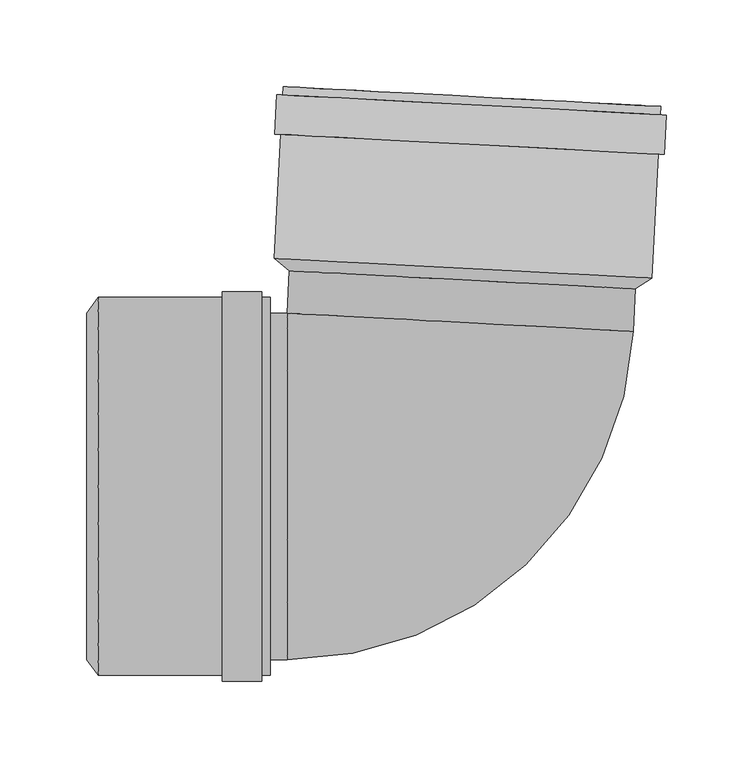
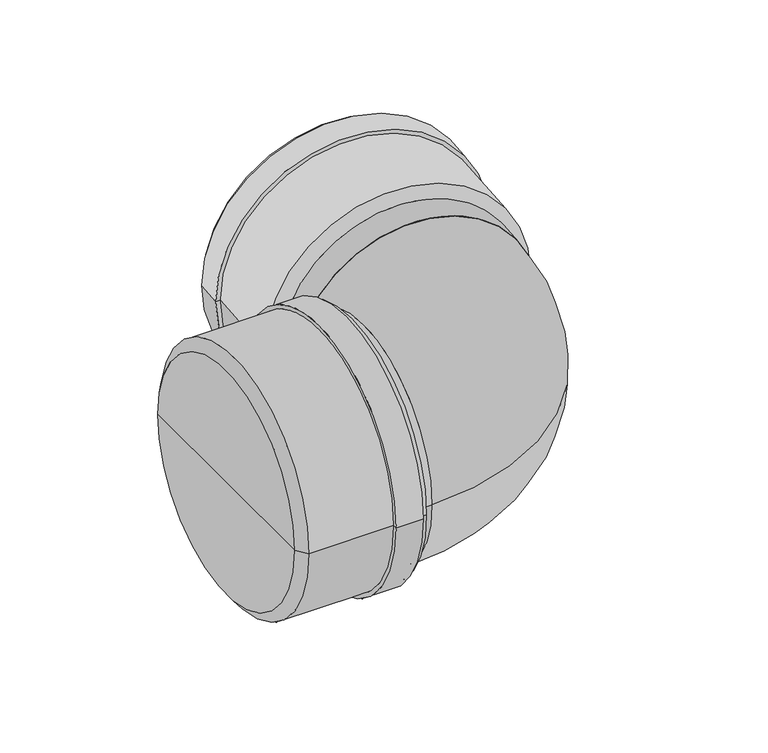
"""IFC4 building model written with IfcOpenShell, lengths in millimetres: pipe fitting geometry, pf_KGB : pf_KGB."""

from ifc_helpers import new_model, si_unit, point, frame, origin, origin_2d, place, context, project, spatial, polyline, circle_curve, ellipse_curve, trimmed, segment, composite_curve, outline, extrude, source, transform, mapped, element, save
from ifc_brep_helpers import plane_surface, cylinder_surface, revolved_surface, advanced_brep


def pipe_fitting_13331f16(model_context):
    return source(origin(), model_context, "Body", "SolidModel", [
        advanced_brep(
        [(106.1118667, 114.0027708, 0.0), (-93.6140403, 124.4699621, 0.0), (-102.3509182, 131.6370372, 0.0), (115.5500463, 120.2173315, 0.0), (6.2489132, 119.2363664, 0.0), (120.7470068, 219.3812443, 0.0), (-97.1539577, 230.80095, 0.0), (-88.0664289, 230.3246928, 0.0), (111.659478, 219.8575015, 0.0), (-97.4051703, 226.0075282, 0.0), (120.4957942, 214.5878225, 0.0), (-100.8005107, 226.1854704, 0.0), (123.8911346, 214.4098803, 0.0), (-101.9937705, 203.4167171, 0.0), (122.6978748, 191.6411269, 0.0), (-98.5984301, 203.2387748, 0.0), (119.3025344, 191.8190691, 0.0), (106.4625176, 120.6935887, 0.0), (-93.2633894, 131.16078, 0.0), (6.5995641, 125.9271843, 0.0)],
        [
            (0, 1, circle_curve(frame((6.2489132, 119.2363664, 0.0), z_axis=(0.052335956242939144, 0.9986295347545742, 0.0), x_axis=(-0.9986295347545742, 0.052335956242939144, 0.0)), 100.0)),
            (1, 2),
            (2, 3, circle_curve(frame((6.5995641, 125.9271843, 0.0), z_axis=(-0.052335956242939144, -0.9986295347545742, 0.0), x_axis=(-0.9986295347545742, 0.052335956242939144, 0.0)), 109.1)),
            (3, 0),
            (1, 0, circle_curve(frame((6.2489132, 119.2363664, 0.0), z_axis=(0.052335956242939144, 0.9986295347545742, 0.0), x_axis=(-0.9986295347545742, 0.052335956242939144, 0.0)), 100.0)),
            (3, 2, circle_curve(frame((6.5995641, 125.9271843, 0.0), z_axis=(-0.052335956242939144, -0.9986295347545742, 0.0), x_axis=(-0.9986295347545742, 0.052335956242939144, 0.0)), 109.1)),
            (4, 1),
            (0, 4),
            (5, 6, circle_curve(frame((11.7965245, 225.0910971, 0.0), z_axis=(0.052335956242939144, 0.9986295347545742, 0.0), x_axis=(-0.9986295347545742, 0.052335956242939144, 0.0)), 109.1)),
            (6, 7),
            (7, 8, circle_curve(frame((11.7965245, 225.0910971, 0.0), z_axis=(-0.052335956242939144, -0.9986295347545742, 0.0), x_axis=(-0.9986295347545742, 0.052335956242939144, 0.0)), 100.0)),
            (8, 5),
            (9, 10, circle_curve(frame((11.5453119, 220.2976754, 0.0), z_axis=(0.052335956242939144, 0.9986295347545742, 0.0), x_axis=(-0.9986295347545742, 0.052335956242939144, 0.0)), 109.1)),
            (10, 5),
            (5, 6, circle_curve(frame((11.7965245, 225.0910971, 0.0), z_axis=(-0.052335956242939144, -0.9986295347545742, 0.0), x_axis=(-0.9986295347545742, 0.052335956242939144, 0.0)), 109.1)),
            (6, 9),
            (11, 12, circle_curve(frame((11.5453119, 220.2976754, 0.0), z_axis=(0.052335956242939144, 0.9986295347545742, 0.0), x_axis=(-0.9986295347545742, 0.052335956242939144, 0.0)), 112.5)),
            (12, 10),
            (9, 11),
            (13, 14, circle_curve(frame((10.3520521, 197.528922, 0.0), z_axis=(0.052335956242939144, 0.9986295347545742, 0.0), x_axis=(-0.9986295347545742, 0.052335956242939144, 0.0)), 112.5)),
            (14, 12),
            (11, 13),
            (15, 16, circle_curve(frame((10.3520521, 197.528922, 0.0), z_axis=(0.052335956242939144, 0.9986295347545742, 0.0), x_axis=(-0.9986295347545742, 0.052335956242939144, 0.0)), 109.1)),
            (16, 14),
            (13, 15),
            (8, 7, circle_curve(frame((11.7965245, 225.0910971, 0.0), z_axis=(-0.052335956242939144, -0.9986295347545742, 0.0), x_axis=(-0.9986295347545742, 0.052335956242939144, 0.0)), 100.0)),
            (10, 9, circle_curve(frame((11.5453119, 220.2976754, 0.0), z_axis=(0.052335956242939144, 0.9986295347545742, 0.0), x_axis=(-0.9986295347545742, 0.052335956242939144, 0.0)), 109.1)),
            (12, 11, circle_curve(frame((11.5453119, 220.2976754, 0.0), z_axis=(0.052335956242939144, 0.9986295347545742, 0.0), x_axis=(-0.9986295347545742, 0.052335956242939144, 0.0)), 112.5)),
            (14, 13, circle_curve(frame((10.3520521, 197.528922, 0.0), z_axis=(0.052335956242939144, 0.9986295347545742, 0.0), x_axis=(-0.9986295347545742, 0.052335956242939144, 0.0)), 112.5)),
            (16, 15, circle_curve(frame((10.3520521, 197.528922, 0.0), z_axis=(0.052335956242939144, 0.9986295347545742, 0.0), x_axis=(-0.9986295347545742, 0.052335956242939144, 0.0)), 109.1)),
            (2, 15),
            (16, 3),
            (17, 18, circle_curve(frame((6.5995641, 125.9271843, 0.0), z_axis=(0.052335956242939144, 0.9986295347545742, 0.0), x_axis=(-0.9986295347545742, 0.052335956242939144, 0.0)), 100.0)),
            (18, 19),
            (19, 17),
            (18, 17, circle_curve(frame((6.5995641, 125.9271843, 0.0), z_axis=(0.052335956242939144, 0.9986295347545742, 0.0), x_axis=(-0.9986295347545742, 0.052335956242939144, 0.0)), 100.0)),
            (7, 18),
            (17, 8),
        ],
        [
            revolved_surface(polyline([(-102.3509182, 131.6370372, 0.0), (-93.6140403, 124.4699621, 0.0)]), (6.2489132, 119.2363664, 0.0), (-0.052335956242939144, -0.9986295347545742, 0.0)),
            plane_surface(frame((6.2489132, 119.2363664, 0.0), z_axis=(-0.052335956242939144, -0.9986295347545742, 0.0), x_axis=(-0.9986295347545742, 0.052335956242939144, 0.0))),
            plane_surface(frame((11.7965245, 225.0910971, 0.0), z_axis=(0.052335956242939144, 0.9986295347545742, 0.0), x_axis=(-0.9986295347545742, 0.052335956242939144, 0.0))),
            cylinder_surface(frame((6.2489132, 119.2363664, 0.0), z_axis=(-0.052335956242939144, -0.9986295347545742, 0.0), x_axis=(-0.9986295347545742, 0.052335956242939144, 0.0)), 109.1),
            plane_surface(frame((11.5453119, 220.2976754, 0.0), z_axis=(0.052335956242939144, 0.9986295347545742, 0.0), x_axis=(-0.9986295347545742, 0.052335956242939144, 0.0))),
            cylinder_surface(frame((6.2489132, 119.2363664, 0.0), z_axis=(-0.052335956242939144, -0.9986295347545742, 0.0), x_axis=(-0.9986295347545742, 0.052335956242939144, 0.0)), 112.5),
            plane_surface(frame((10.3520521, 197.528922, 0.0), z_axis=(-0.052335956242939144, -0.9986295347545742, 0.0), x_axis=(-0.9986295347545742, 0.052335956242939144, 0.0))),
            plane_surface(frame((6.5995641, 125.9271843, 0.0), z_axis=(0.052335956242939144, 0.9986295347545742, 0.0), x_axis=(-0.9986295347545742, 0.052335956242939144, 0.0))),
            revolved_surface(polyline([(-93.26338936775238, 131.1607799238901, 0.0), (-88.06642890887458, 230.3246928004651, 0.0)]), (6.2489132, 119.2363664, 0.0), (-0.052335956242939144, -0.9986295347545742, 0.0)),
        ],
        [
            (0, [[1, 2, 3, 4]]),
            (0, [[5, -4, 6, -2]]),
            (1, [[7, -1, 8]]),
            (1, [[-8, -5, -7]]),
            (2, [[9, 10, 11, 12]]),
            (3, [[13, 14, 15, 16]]),
            (4, [[17, 18, -13, 19]]),
            (5, [[20, 21, -17, 22]]),
            (6, [[23, 24, -20, 25]]),
            (2, [[-15, -12, 26, -10]]),
            (3, [[27, -16, -9, -14]]),
            (4, [[28, -19, -27, -18]]),
            (5, [[29, -22, -28, -21]]),
            (6, [[30, -25, -29, -24]]),
            (3, [[-3, 31, -30, 32]]),
            (3, [[-6, -32, -23, -31]]),
            (7, [[33, 34, 35]]),
            (7, [[36, -35, -34]]),
            (8, [[-11, 37, -33, 38]]),
            (8, [[-26, -38, -36, -37]]),
        ],
    ),
        advanced_brep(
        [(-210.7, -100.0, 0.0), (-210.7, 100.0, 0.0), (-204.0, 109.1, 0.0), (-204.0, -109.1, 0.0), (-210.7, 0.0, 0.0), (-104.7, -109.1, 0.0), (-104.7, 109.1, 0.0), (-104.7, 100.0, 0.0), (-104.7, -100.0, 0.0), (-109.5, 109.1, 0.0), (-109.5, -109.1, 0.0), (-109.5, 112.5, 0.0), (-109.5, -112.5, 0.0), (-132.3, 112.5, 0.0), (-132.3, -112.5, 0.0), (-132.3, 109.1, 0.0), (-132.3, -109.1, 0.0), (-204.0, -100.0, 0.0), (-204.0, 100.0, 0.0), (-204.0, 0.0, 0.0)],
        [
            (0, 1, circle_curve(frame((-210.7, 0.0, 0.0), z_axis=(1.0, 0.0, 0.0), x_axis=(0.0, 1.0, 0.0)), 100.0)),
            (1, 2),
            (2, 3, circle_curve(frame((-204.0, 0.0, 0.0), z_axis=(-1.0, 0.0, 0.0), x_axis=(0.0, 1.0, 0.0)), 109.1)),
            (3, 0),
            (1, 0, circle_curve(frame((-210.7, 0.0, 0.0), z_axis=(1.0, 0.0, 0.0), x_axis=(0.0, 1.0, 0.0)), 100.0)),
            (3, 2, circle_curve(frame((-204.0, 0.0, 0.0), z_axis=(-1.0, 0.0, 0.0), x_axis=(0.0, 1.0, 0.0)), 109.1)),
            (4, 1),
            (0, 4),
            (5, 6, circle_curve(frame((-104.7, 0.0, 0.0), z_axis=(1.0, 0.0, 0.0), x_axis=(0.0, 1.0, 0.0)), 109.1)),
            (6, 7),
            (7, 8, circle_curve(frame((-104.7, 0.0, 0.0), z_axis=(-1.0, 0.0, 0.0), x_axis=(0.0, 1.0, 0.0)), 100.0)),
            (8, 5),
            (9, 10, circle_curve(frame((-109.5, 0.0, 0.0), z_axis=(1.0, 0.0, 0.0), x_axis=(0.0, 1.0, 0.0)), 109.1)),
            (10, 5),
            (5, 6, circle_curve(frame((-104.7, 0.0, 0.0), z_axis=(-1.0, 0.0, 0.0), x_axis=(0.0, 1.0, 0.0)), 109.1)),
            (6, 9),
            (11, 12, circle_curve(frame((-109.5, 0.0, 0.0), z_axis=(1.0, 0.0, 0.0), x_axis=(0.0, 1.0, 0.0)), 112.5)),
            (12, 10),
            (9, 11),
            (13, 14, circle_curve(frame((-132.3, 0.0, 0.0), z_axis=(1.0, 0.0, 0.0), x_axis=(0.0, 1.0, 0.0)), 112.5)),
            (14, 12),
            (11, 13),
            (15, 16, circle_curve(frame((-132.3, 0.0, 0.0), z_axis=(1.0, 0.0, 0.0), x_axis=(0.0, 1.0, 0.0)), 109.1)),
            (16, 14),
            (13, 15),
            (8, 7, circle_curve(frame((-104.7, 0.0, 0.0), z_axis=(-1.0, 0.0, 0.0), x_axis=(0.0, 1.0, 0.0)), 100.0)),
            (10, 9, circle_curve(frame((-109.5, 0.0, 0.0), z_axis=(1.0, 0.0, 0.0), x_axis=(0.0, 1.0, 0.0)), 109.1)),
            (12, 11, circle_curve(frame((-109.5, 0.0, 0.0), z_axis=(1.0, 0.0, 0.0), x_axis=(0.0, 1.0, 0.0)), 112.5)),
            (14, 13, circle_curve(frame((-132.3, 0.0, 0.0), z_axis=(1.0, 0.0, 0.0), x_axis=(0.0, 1.0, 0.0)), 112.5)),
            (16, 15, circle_curve(frame((-132.3, 0.0, 0.0), z_axis=(1.0, 0.0, 0.0), x_axis=(0.0, 1.0, 0.0)), 109.1)),
            (2, 15),
            (16, 3),
            (17, 18, circle_curve(frame((-204.0, 0.0, 0.0), z_axis=(1.0, 0.0, 0.0), x_axis=(0.0, 1.0, 0.0)), 100.0)),
            (18, 19),
            (19, 17),
            (18, 17, circle_curve(frame((-204.0, 0.0, 0.0), z_axis=(1.0, 0.0, 0.0), x_axis=(0.0, 1.0, 0.0)), 100.0)),
            (7, 18),
            (17, 8),
        ],
        [
            revolved_surface(polyline([(-204.0, 109.1, 0.0), (-210.7, 100.0, 0.0)]), (-210.7, 0.0, 0.0), (-1.0, 0.0, 0.0)),
            plane_surface(frame((-210.7, 0.0, 0.0), z_axis=(-1.0, 0.0, 0.0), x_axis=(0.0, 1.0, 0.0))),
            plane_surface(frame((-104.7, 0.0, 0.0), z_axis=(1.0, 0.0, 0.0), x_axis=(0.0, 1.0, 0.0))),
            cylinder_surface(frame((-210.7, 0.0, 0.0), z_axis=(-1.0, 0.0, 0.0), x_axis=(0.0, 1.0, 0.0)), 109.1),
            plane_surface(frame((-109.5, 0.0, 0.0), z_axis=(1.0, 0.0, 0.0), x_axis=(0.0, 1.0, 0.0))),
            cylinder_surface(frame((-210.7, 0.0, 0.0), z_axis=(-1.0, 0.0, 0.0), x_axis=(0.0, 1.0, 0.0)), 112.5),
            plane_surface(frame((-132.3, 0.0, 0.0), z_axis=(-1.0, 0.0, 0.0), x_axis=(0.0, 1.0, 0.0))),
            plane_surface(frame((-204.0, 0.0, 0.0), z_axis=(1.0, 0.0, 0.0), x_axis=(0.0, 1.0, 0.0))),
            revolved_surface(polyline([(-204.0, 100.0, 0.0), (-104.7, 100.0, 0.0)]), (-210.7, 0.0, 0.0), (-1.0, 0.0, 0.0)),
        ],
        [
            (0, [[1, 2, 3, 4]]),
            (0, [[5, -4, 6, -2]]),
            (1, [[7, -1, 8]]),
            (1, [[-8, -5, -7]]),
            (2, [[9, 10, 11, 12]]),
            (3, [[13, 14, 15, 16]]),
            (4, [[17, 18, -13, 19]]),
            (5, [[20, 21, -17, 22]]),
            (6, [[23, 24, -20, 25]]),
            (2, [[-15, -12, 26, -10]]),
            (3, [[27, -16, -9, -14]]),
            (4, [[28, -19, -27, -18]]),
            (5, [[29, -22, -28, -21]]),
            (6, [[30, -25, -29, -24]]),
            (3, [[-3, 31, -30, 32]]),
            (3, [[-6, -32, -23, -31]]),
            (7, [[33, 34, 35]]),
            (7, [[36, -35, -34]]),
            (8, [[-11, 37, -33, 38]]),
            (8, [[-26, -38, -36, -37]]),
        ],
    ),
        extrude(outline(composite_curve([segment(trimmed(circle_curve(origin_2d(), 100.0), [point((0.0, -100.0))], [point((0.0, 100.0))], False, "CARTESIAN"), True, "CONTINUOUS"), segment(trimmed(circle_curve(origin_2d(), 100.0), [point((0.0, 100.0))], [point((0.0, -100.0))], False, "CARTESIAN"), True, "CONTINUOUS")], self_intersect=False)), frame((4.9664968, 94.7664044, 0.0), z_axis=(0.05233595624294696, 0.9986295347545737, 0.0), x_axis=(0.0, 0.0, 1.0)), (0.0, 0.0, 1.0), 24.5035433),
        extrude(outline(composite_curve([segment(trimmed(circle_curve(origin_2d(), 100.0), [point((-100.0, 0.0))], [point((100.0, 0.0))], False, "CARTESIAN"), True, "CONTINUOUS"), segment(trimmed(circle_curve(origin_2d(), 100.0), [point((100.0, 0.0))], [point((-100.0, 0.0))], False, "CARTESIAN"), True, "CONTINUOUS")], self_intersect=False)), frame((-204.0, 0.0, 0.0), z_axis=(1.0, 0.0, 0.0), x_axis=(0.0, 1.0, 0.0)), (0.0, 0.0, 1.0), 109.1035433),
        advanced_brep(
        [(-94.8964567, -100.0, 0.0), (-94.8964567, 100.0, 0.0), (104.8294503, 89.5328088, 0.0)],
        [
            (0, 1, circle_curve(frame((-94.8964567, 0.0, 0.0), z_axis=(-1.0, 0.0, 0.0), x_axis=(0.0, 1.0, 0.0)), 100.0)),
            (1, 0, circle_curve(frame((-94.8964567, 0.0, 0.0), z_axis=(-1.0, 0.0, 0.0), x_axis=(0.0, 1.0, 0.0)), 100.0)),
            (2, 1, circle_curve(frame((4.9664968, 94.7664044, 0.0), z_axis=(0.05233595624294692, 0.9986295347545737, 0.0), x_axis=(-0.9986295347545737, 0.05233595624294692, 0.0)), 100.0)),
            (1, 2, circle_curve(frame((4.9664968, 94.7664044, 0.0), z_axis=(0.05233595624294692, 0.9986295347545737, 0.0), x_axis=(-0.9986295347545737, 0.05233595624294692, 0.0)), 100.0)),
            (2, 0, circle_curve(frame((-94.8964567, 100.0, 0.0), z_axis=(0.0, 0.0, -1.0), x_axis=(0.0, -1.0, 0.0)), 200.0)),
        ],
        [
            plane_surface(frame((-94.8964567, 100.0, -14.8), z_axis=(-1.0, 0.0, 0.0), x_axis=(0.0, -1.0, 0.0))),
            plane_surface(frame((-94.8964567, 100.0, -14.8), z_axis=(0.052335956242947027, 0.9986295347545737, 0.0), x_axis=(0.9986295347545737, -0.052335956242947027, 0.0))),
            revolved_surface(trimmed(ellipse_curve(frame((-94.8964567, 0.0, 0.0), z_axis=(1.0, 0.0, 0.0), x_axis=(0.0, 1.0, 0.0)), 100.0, 100.0), [point((-94.8964567, -100.0, 0.0))], [point((-94.8964567, 100.0, 0.0))], True, "CARTESIAN"), (-94.8964567, 100.0, -14.8), (0.0, 0.0, -1.0)),
            revolved_surface(trimmed(ellipse_curve(frame((-94.8964567, 0.0, 0.0), z_axis=(1.0, 0.0, 0.0), x_axis=(0.0, 1.0, 0.0)), 100.0, 100.0), [point((-94.8964567, 100.0, 0.0))], [point((-94.8964567, -100.0, 0.0))], True, "CARTESIAN"), (-94.8964567, 100.0, -14.8), (0.0, 0.0, -1.0)),
        ],
        [
            (0, [[1, 2]]),
            (1, [[3, 4]]),
            (2, [[5, -2, -3]]),
            (3, [[-1, -5, -4]]),
        ],
    ),
    ])


if __name__ == "__main__":
    model = new_model("IFC4")
    model_context = context("Model", 3, world=origin())
    ifc_project = project(units=[si_unit("LENGTHUNIT", "METRE", prefix="MILLI")], contexts=[model_context])
    site = spatial("IfcSite", under=ifc_project)
    building = spatial("IfcBuilding", under=site)
    placement = place(None, origin())
    pipe_fitting_shape = pipe_fitting_13331f16(model_context)
    element("IfcPipeFitting", 1, ObjectType="pf_KGB : pf_KGB", at=placement, inside=building, context=model_context, shape_type="MappedRepresentation", body=[
        mapped(pipe_fitting_shape, transform((0.0, 0.0, 0.0), x_axis=(1.0, 0.0, 0.0), y_axis=(0.0, 1.0, 0.0), z_axis=(0.0, 0.0, 1.0))),
    ])
    save(model, "model.ifc")
